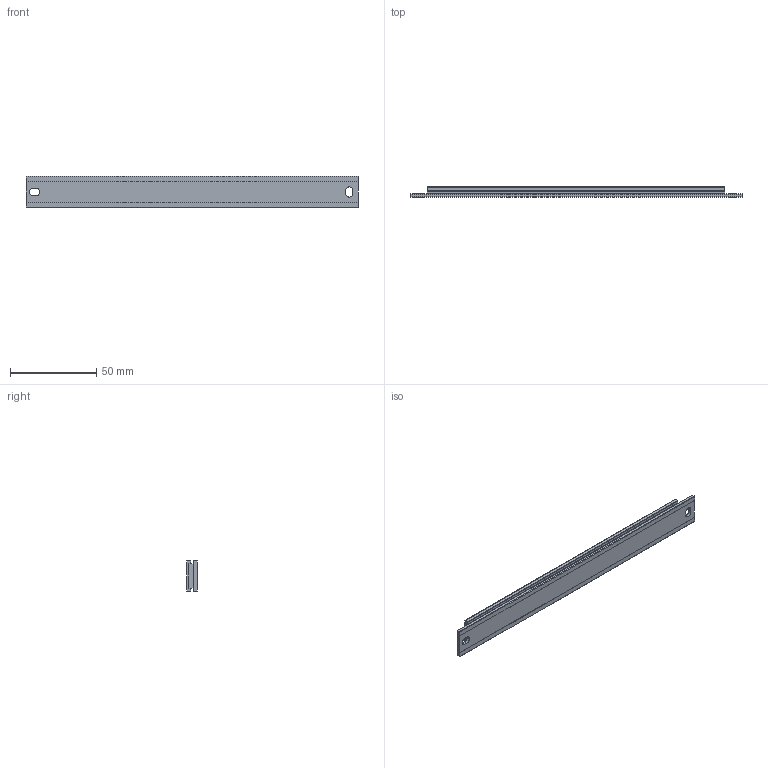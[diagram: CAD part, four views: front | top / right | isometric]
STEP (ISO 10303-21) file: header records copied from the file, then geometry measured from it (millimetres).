
FILE_DESCRIPTION (( 'STEP AP214' ), '1' );
FILE_NAME ('SAScale_exposed.ScaleLneght192.STEP', '2026-03-10T09:09:08', ( '' ), ( '' ), 'SwSTEP 2.0', 'SolidWorks 2024', '' );
FILE_SCHEMA (( 'AUTOMOTIVE_DESIGN' ));
Length unit declared in the file: millimetre
Products named in the file (1): SAScale_exposed.ScaleLneght192
Bounding box: 192 x 6 x 18 mm (x, y, z)
Volume: 17825.3 mm3; surface area: 15822.7 mm2
Topology: 2 solids, 2 shells, 52 faces, 141 edges, 94 vertices
Faces by surface type: plane 37, cylinder 15
Entity records: 2247 total; most frequent: CARTESIAN_POINT 288, ORIENTED_EDGE 282, DIRECTION 277, EDGE_CURVE 141, VECTOR 111, LINE 111, VERTEX_POINT 94, AXIS2_PLACEMENT_3D 83
